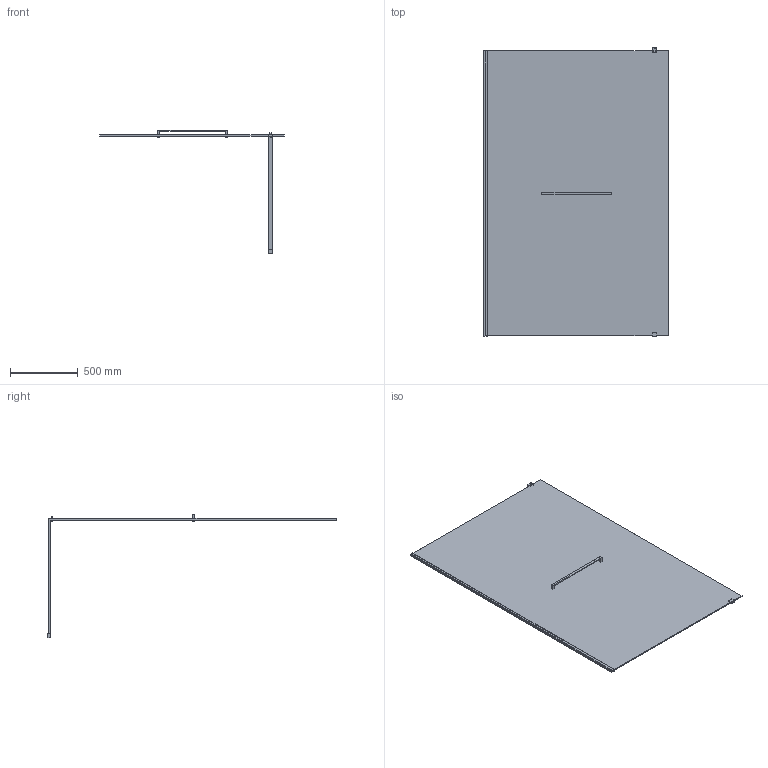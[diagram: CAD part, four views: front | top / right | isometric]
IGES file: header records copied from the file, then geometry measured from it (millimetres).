
Start section: SolidWorks IGES file using analytic representation for surfaces
Global section: file name: D:\Users\M.Szymanski\Desktop\Kabiny\PIII_ALTIIa\03. do przegrania\PIII_ALTIIa_140_z_relingiem_K3D.IGS; native system: SolidWorks 2011; preprocessor: SolidWorks 2011; author: M.Szymanski; date: 181005.105130; units: millimetre
Bounding box: 1358.45 x 2128 x 914.13 mm (x, y, z)
Surface area: 6044630.1 mm2 (no closed solid volume)
Topology: 0 solids, 0 shells, 62 faces, 444 edges, 592 vertices
Faces by surface type: bspline 62
